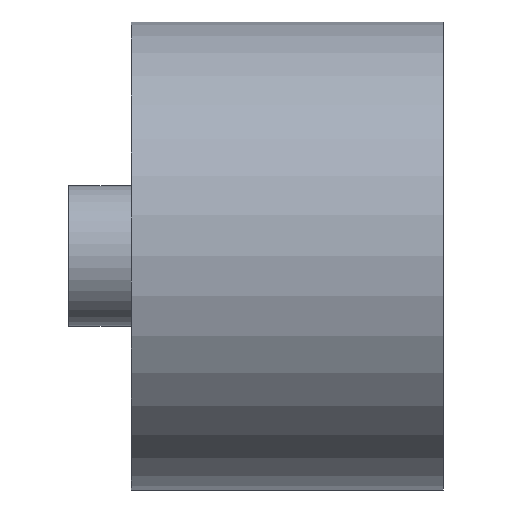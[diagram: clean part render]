
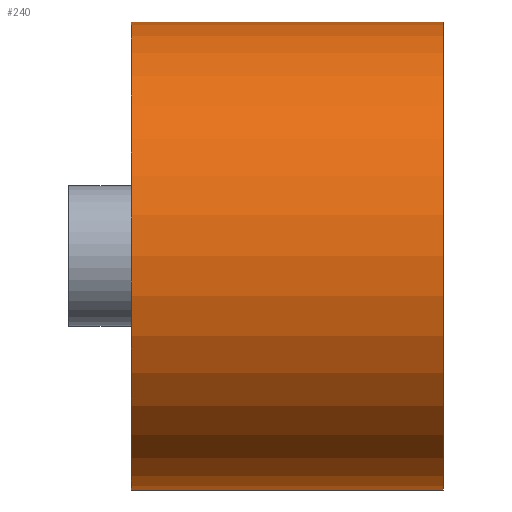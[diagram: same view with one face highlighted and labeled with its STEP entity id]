
A CAD part, top view. The second image highlights one B-rep face of the part: STEP entity #240.
In plain terms, the highlighted cylindrical face has radius 30 mm (diameter 60 mm), a partial arc.
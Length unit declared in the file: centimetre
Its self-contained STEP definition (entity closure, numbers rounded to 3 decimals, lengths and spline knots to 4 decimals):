
#240 = ADVANCED_FACE ( 'NONE', ( #6855 ), #1320, .T. ) ;
#320 = VECTOR ( 'NONE', #2577, 100. ) ;
#535 = DIRECTION ( 'NONE',  ( 1., 0., 0. ) ) ;
#666 = VERTEX_POINT ( 'NONE', #4799 ) ;
#906 = VECTOR ( 'NONE', #2111, 100. ) ;
#1014 = CARTESIAN_POINT ( 'NONE',  ( 0.85, -3., 0. ) ) ;
#1089 = ORIENTED_EDGE ( 'NONE', *, *, #4475, .T. ) ;
#1125 = VERTEX_POINT ( 'NONE', #3301 ) ;
#1320 = CYLINDRICAL_SURFACE ( 'NONE', #2710, 3. ) ;
#1417 = EDGE_CURVE ( 'NONE', #5911, #5825, #4644, .T. ) ;
#1527 = CARTESIAN_POINT ( 'NONE',  ( 0.85, 3., 0. ) ) ;
#1553 = DIRECTION ( 'NONE',  ( 0., 1., 0. ) ) ;
#1735 = AXIS2_PLACEMENT_3D ( 'NONE', #6179, #535, #5590 ) ;
#1768 = AXIS2_PLACEMENT_3D ( 'NONE', #3753, #3240, #4288 ) ;
#2048 = CARTESIAN_POINT ( 'NONE',  ( 0.85, 0., 0. ) ) ;
#2111 = DIRECTION ( 'NONE',  ( 1., 0., 0. ) ) ;
#2571 = ORIENTED_EDGE ( 'NONE', *, *, #1417, .F. ) ;
#2577 = DIRECTION ( 'NONE',  ( 1., 0., 0. ) ) ;
#2679 = ORIENTED_EDGE ( 'NONE', *, *, #6764, .T. ) ;
#2710 = AXIS2_PLACEMENT_3D ( 'NONE', #2048, #3765, #1553 ) ;
#2861 = EDGE_LOOP ( 'NONE', ( #1089, #2679, #2571, #6631 ) ) ;
#2862 = LINE ( 'NONE', #1014, #906 ) ;
#3240 = DIRECTION ( 'NONE',  ( 1., 0., 0. ) ) ;
#3301 = CARTESIAN_POINT ( 'NONE',  ( -3.15, -3., 0. ) ) ;
#3753 = CARTESIAN_POINT ( 'NONE',  ( 0.85, 0., 0. ) ) ;
#3765 = DIRECTION ( 'NONE',  ( 1., 0., 0. ) ) ;
#4273 = CARTESIAN_POINT ( 'NONE',  ( 0.85, 3., 0. ) ) ;
#4288 = DIRECTION ( 'NONE',  ( 0., 1., 0. ) ) ;
#4475 = EDGE_CURVE ( 'NONE', #666, #1125, #7278, .T. ) ;
#4541 = LINE ( 'NONE', #4273, #320 ) ;
#4644 = CIRCLE ( 'NONE', #1768, 3. ) ;
#4799 = CARTESIAN_POINT ( 'NONE',  ( -3.15, 3., 0. ) ) ;
#4935 = CARTESIAN_POINT ( 'NONE',  ( 0.85, -3., 0. ) ) ;
#5590 = DIRECTION ( 'NONE',  ( 0., 1., 0. ) ) ;
#5698 = EDGE_CURVE ( 'NONE', #666, #5911, #4541, .T. ) ;
#5825 = VERTEX_POINT ( 'NONE', #4935 ) ;
#5911 = VERTEX_POINT ( 'NONE', #1527 ) ;
#6179 = CARTESIAN_POINT ( 'NONE',  ( -3.15, 0., 0. ) ) ;
#6631 = ORIENTED_EDGE ( 'NONE', *, *, #5698, .F. ) ;
#6764 = EDGE_CURVE ( 'NONE', #1125, #5825, #2862, .T. ) ;
#6855 = FACE_OUTER_BOUND ( 'NONE', #2861, .T. ) ;
#7278 = CIRCLE ( 'NONE', #1735, 3. ) ;
